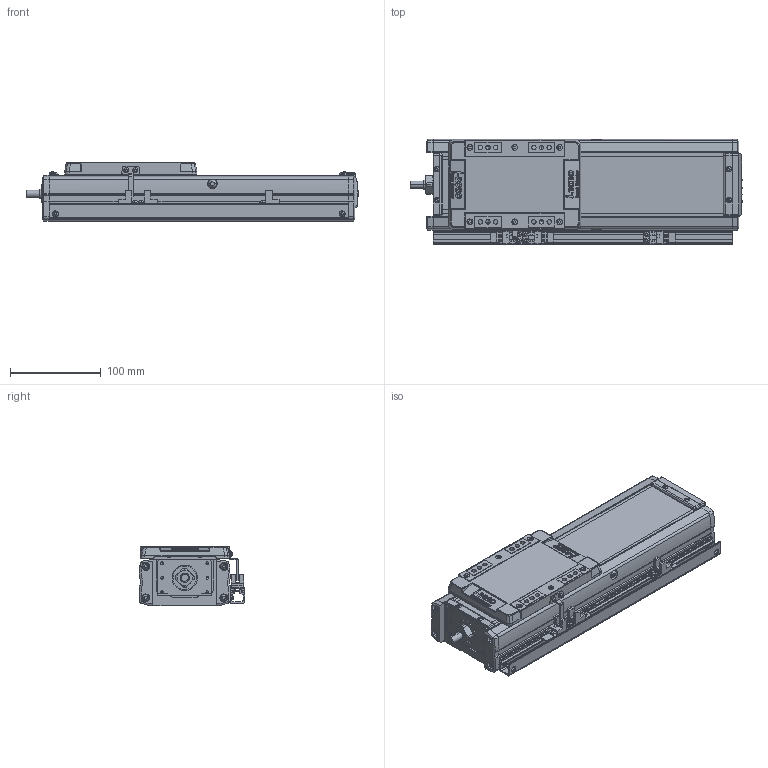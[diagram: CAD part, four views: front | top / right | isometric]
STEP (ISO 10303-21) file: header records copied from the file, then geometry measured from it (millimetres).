
FILE_DESCRIPTION(('STEP AP214'),'1');
FILE_NAME('Z:/Web/3D/SAN100/SAN100 양산용 (STEP)/SAN100ㅁㅁ-150+3SR.stp','2013-04-24T07:03:05',(' '),(' '),'Spatial InterOp 3D',' ',' ');
FILE_SCHEMA(('automotive_design'));
Length unit declared in the file: millimetre
Products named in the file (50): SUS COVER; SFX-SAN100; RRCV-SAN100; 스크루 : Round - M4.0 x 10.0; M3.0 x 6.0; 스크루 : Round - M3.0 x 6.0; FRBL-SAN100; SLBL-SAN100; SLCV-SAN100; 스크루 : Countersunk - M3.0 x 6.0; BASE; 스크루 : Round - M5.0 x 6.0; 너트 : Square - M10.0 x 220.7419; RR1500-000L; FRCV-SAN100; EE-SX674; SBK-SX674-352; SRL-16x17-380L; SGD-SAN100
Bounding box: 366 x 116 x 66 mm (x, y, z)
Volume: 1109579.5 mm3; surface area: 341856.1 mm2
Topology: 50 solids, 51 shells, 2353 faces, 6120 edges, 3965 vertices
Faces by surface type: plane 1294, cylinder 763, cone 198, sphere 60, torus 26, bspline 12
Entity records: 92613 total; most frequent: CARTESIAN_POINT 13738, DIRECTION 12835, ORIENTED_EDGE 12100, EDGE_CURVE 6050, AXIS2_PLACEMENT_3D 4499, VERTEX_POINT 3965, LINE 3837, VECTOR 3837
